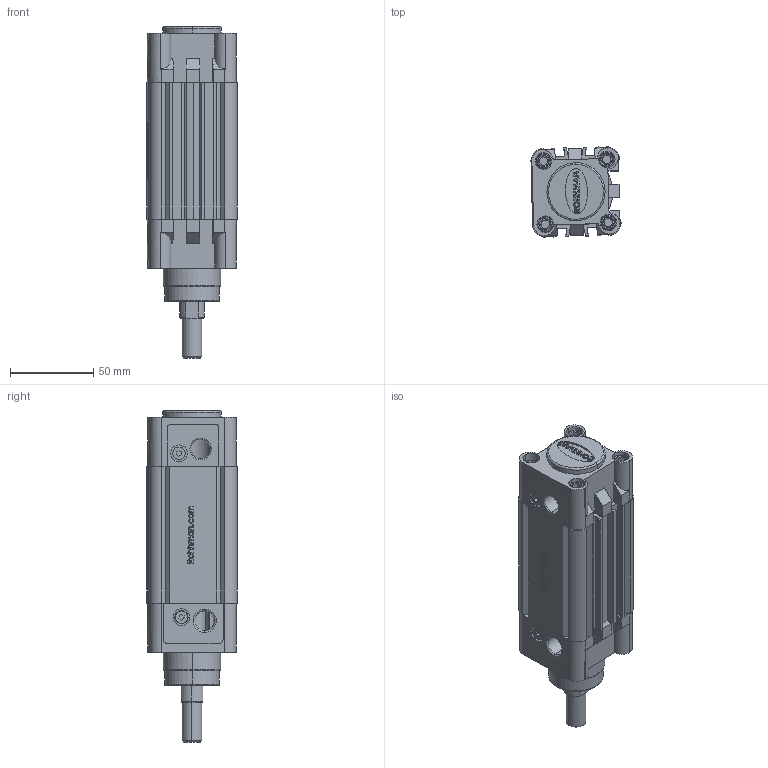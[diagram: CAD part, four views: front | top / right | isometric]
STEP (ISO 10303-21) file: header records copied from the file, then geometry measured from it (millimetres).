
FILE_DESCRIPTION (( 'STEP AP214' ), '1' );
FILE_NAME ('RIC_40_50_WEB.STEP', '2021-01-10T10:34:52', ( '' ), ( '' ), 'SwSTEP 2.0', 'SolidWorks 2021', '' );
FILE_SCHEMA (( 'AUTOMOTIVE_DESIGN' ));
Length unit declared in the file: millimetre
Products named in the file (8): yastýklama civatasý; m6kapakcivatasi; RIC_40_50_WEB; ric40onkapak; ric40arkakapak; 16_K_MIL_WEB; RIC_40_BORU_WEB_RIC 40-250; ric40bogazkecesi
Assembly tree (15 placements, depth 2):
  RIC_40_50_WEB
    ric40arkakapak
    ric40onkapak
    RIC_40_BORU_WEB_RIC 40-250
    ric40bogazkecesi
    yastýklama civatasý  x2
    m6kapakcivatasi  x8
    16_K_MIL_WEB
Bounding box: 54.22 x 54.22 x 199.5 mm (x, y, z)
Volume: 221991.4 mm3; surface area: 105253.8 mm2
Topology: 22 solids, 22 shells, 1035 faces, 2485 edges, 1585 vertices
Faces by surface type: plane 553, cylinder 227, cone 131, bspline 98, torus 26
Entity records: 31879 total; most frequent: CARTESIAN_POINT 10352, ORIENTED_EDGE 3982, DIRECTION 3656, EDGE_CURVE 1991, VERTEX_POINT 1289, VECTOR 1264, LINE 1264, AXIS2_PLACEMENT_3D 1196
